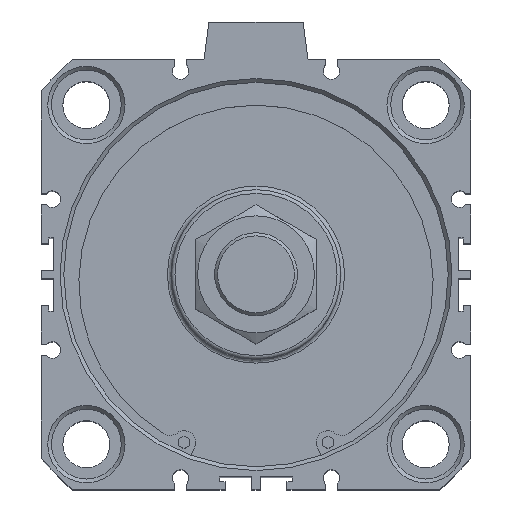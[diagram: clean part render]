
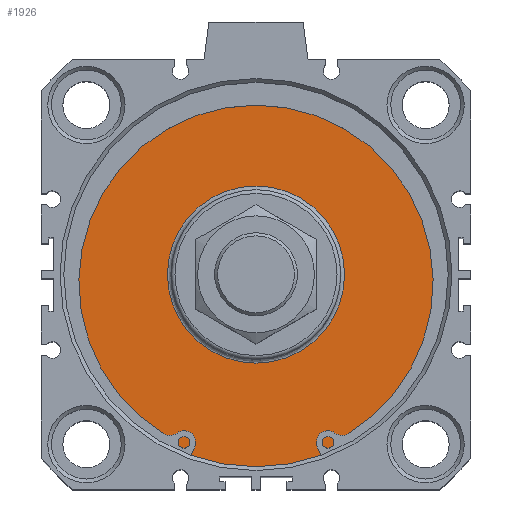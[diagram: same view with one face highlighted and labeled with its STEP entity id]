
A CAD part, top view. The second image highlights one B-rep face of the part: STEP entity #1926.
In plain terms, the highlighted planar face has unit normal (0, 0, 1).
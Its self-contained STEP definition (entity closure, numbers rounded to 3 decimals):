
#1875=CARTESIAN_POINT('',(-3.11,25.175,87.6));
#1876=VERTEX_POINT('',#1875);
#1877=CARTESIAN_POINT('',(-3.11,1.675,87.6));
#1878=DIRECTION('',(0.0,0.0,1.0));
#1879=DIRECTION('',(0.0,-1.0,0.0));
#1880=AXIS2_PLACEMENT_3D('',#1877,#1878,#1879);
#1881=CIRCLE('',#1880,23.5);
#1882=EDGE_CURVE('',#1876,#1876,#1881,.T.);
#1907=CARTESIAN_POINT('',(-3.11,38.425,87.6));
#1908=DIRECTION('',(0.0,0.0,1.0));
#1909=DIRECTION('',(1.0,0.0,0.0));
#1910=AXIS2_PLACEMENT_3D('',#1907,#1908,#1909);
#1911=PLANE('',#1910);
#1912=CARTESIAN_POINT('',(-3.11,52.675,87.6));
#1913=VERTEX_POINT('',#1912);
#1914=CARTESIAN_POINT('',(-3.11,1.675,87.6));
#1915=DIRECTION('',(0.0,0.0,-1.0));
#1916=DIRECTION('',(0.0,1.0,0.0));
#1917=AXIS2_PLACEMENT_3D('',#1914,#1915,#1916);
#1918=CIRCLE('',#1917,51.);
#1919=EDGE_CURVE('',#1913,#1913,#1918,.T.);
#1920=ORIENTED_EDGE('',*,*,#1919,.F.);
#1921=EDGE_LOOP('',(#1920));
#1922=FACE_OUTER_BOUND('',#1921,.T.);
#1923=ORIENTED_EDGE('',*,*,#1882,.F.);
#1924=EDGE_LOOP('',(#1923));
#1925=FACE_BOUND('',#1924,.T.);
#1926=ADVANCED_FACE('',(#1922,#1925),#1911,.T.);
